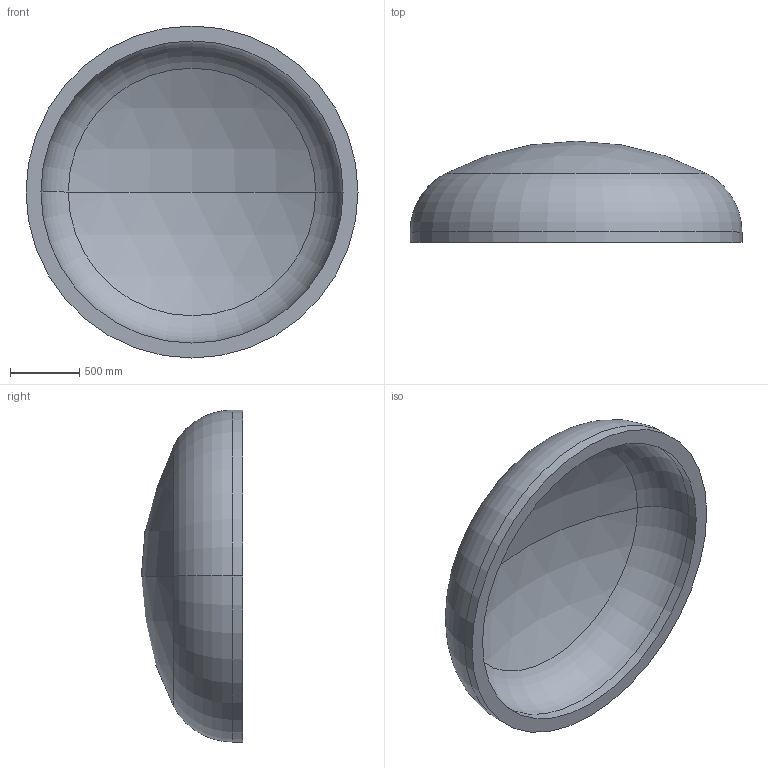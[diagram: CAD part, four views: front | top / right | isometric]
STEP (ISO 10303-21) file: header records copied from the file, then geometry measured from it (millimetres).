
FILE_DESCRIPTION (( 'STEP AP203' ), '1' );
FILE_NAME ('DIN 28013 Korbbogenform_-_Boden DIN 28013 - 2400 x 75 - I - s=108.step', '2016-07-01T15:44:20', ( '' ), ( '' ), 'SwSTEP 2.0', 'SolidWorks 2013', '' );
FILE_SCHEMA (( 'CONFIG_CONTROL_DESIGN' ));
Length unit declared in the file: millimetre
Products named in the file (1): DIN 28013 Korbbogenform_-_Boden DIN 28013 - 2400 x 75 - I - s=108
Bounding box: 2400 x 731.43 x 2400 mm (x, y, z)
Volume: 696969730.2 mm3; surface area: 13708929.3 mm2
Topology: 1 solids, 1 shells, 13 faces, 24 edges, 14 vertices
Faces by surface type: torus 4, cylinder 4, sphere 4, plane 1
Entity records: 407 total; most frequent: DIRECTION 72, CARTESIAN_POINT 52, ORIENTED_EDGE 48, AXIS2_PLACEMENT_3D 34, EDGE_CURVE 24, CIRCLE 20, VERTEX_POINT 14, EDGE_LOOP 14
